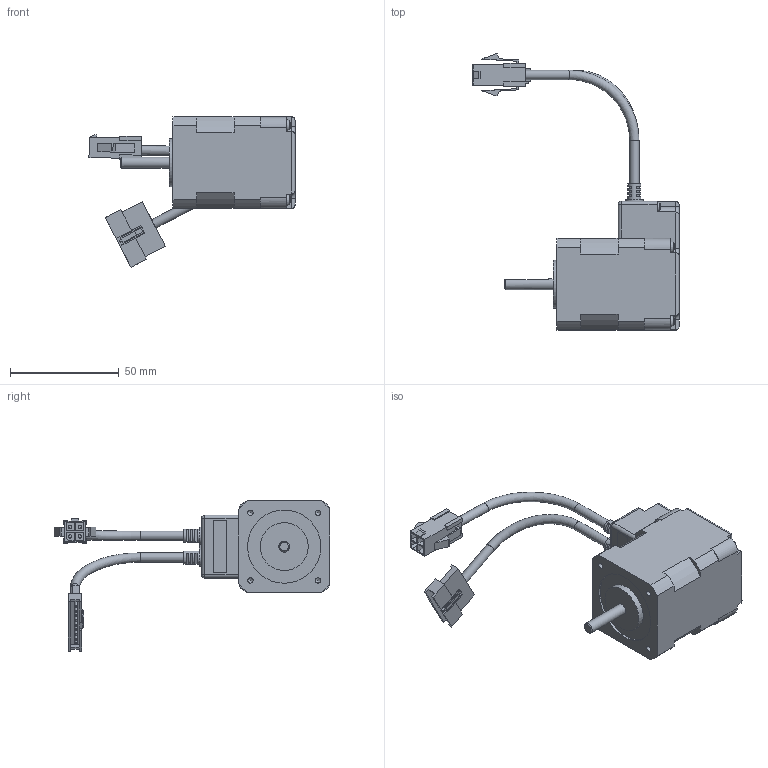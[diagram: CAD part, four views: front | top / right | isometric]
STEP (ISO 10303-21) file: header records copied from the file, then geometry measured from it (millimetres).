
FILE_DESCRIPTION(/* description */ (''),/* implementation_level */ '2;1');
FILE_NAME(/* name */ '\\EMN0D5F01\rp_inventor\RP Mechanical Design\Wiley\Updated Models\eCLM-P172A.stp',/* time_stamp */ '2016-10-27T15:06:56-07:00',/* author */ ('JDB'),/* organization */ ('Parker Hannifin Corp'),/* preprocessor_version */ 'ST-DEVELOPER v15.2',/* originating_system */ 'Autodesk Inventor 2014',/* authorisation */ '');
FILE_SCHEMA (('CONFIG_CONTROL_DESIGN'));
Length unit declared in the file: inch
Products named in the file (1): eCLM-P172A_sw
Bounding box: 94.54 x 126.61 x 68.94 mm (x, y, z)
Volume: 84444 mm3; surface area: 31493.4 mm2
Topology: 3 solids, 3 shells, 661 faces, 1716 edges, 1097 vertices
Faces by surface type: plane 456, cylinder 129, cone 50, torus 12, sphere 8, bspline 6
Full cylindrical faces by diameter (mm): 1 x9, 1.5 x4, 1.6 x4, 2.5 x4, 3 x4, 3.4 x4, 4.3 x4, 5 x2, 5.5 x4, 6 x8, 8 x1, 22 x1, 33.6 x1
Entity records: 19628 total; most frequent: CARTESIAN_POINT 3841, DIRECTION 3327, ORIENTED_EDGE 3160, EDGE_CURVE 1578, AXIS2_PLACEMENT_3D 1164, VERTEX_POINT 1047, LINE 999, VECTOR 999
